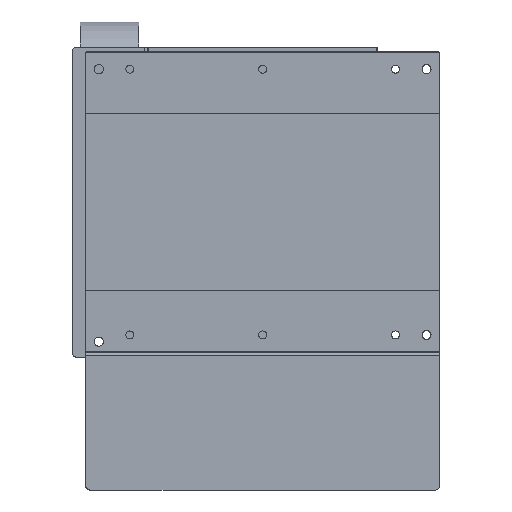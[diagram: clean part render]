
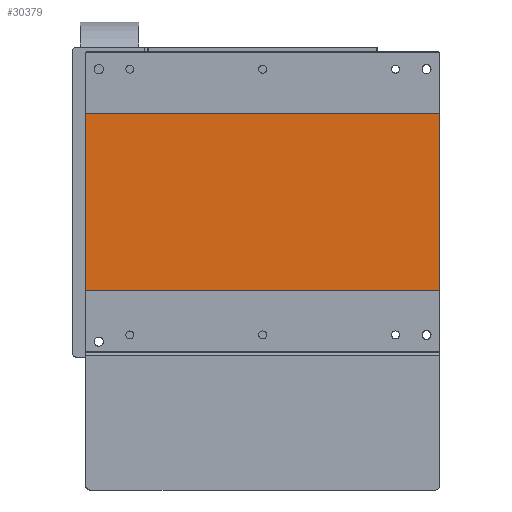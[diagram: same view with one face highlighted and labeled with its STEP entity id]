
A CAD part, front view. The second image highlights one B-rep face of the part: STEP entity #30379.
In plain terms, the highlighted planar face has unit normal (0, -1, 0).
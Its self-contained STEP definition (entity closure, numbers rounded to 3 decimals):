
#4488 = ORIENTED_EDGE ( 'NONE', *, *, #5223, .F. ) ;
#4627 = DIRECTION ( 'NONE',  ( 0., 1., 0. ) ) ;
#4969 = DIRECTION ( 'NONE',  ( 0., 0., -1. ) ) ;
#5223 = EDGE_CURVE ( 'NONE', #43406, #20478, #54245, .T. ) ;
#5656 = EDGE_CURVE ( 'NONE', #49024, #43406, #89039, .T. ) ;
#9570 = ORIENTED_EDGE ( 'NONE', *, *, #65880, .F. ) ;
#11076 = CARTESIAN_POINT ( 'NONE',  ( 200., 0.5, -100. ) ) ;
#11401 = CARTESIAN_POINT ( 'NONE',  ( 200., 0.5, 100. ) ) ;
#12317 = DIRECTION ( 'NONE',  ( 0., 0., -1. ) ) ;
#13425 = AXIS2_PLACEMENT_3D ( 'NONE', #26647, #4627, #12317 ) ;
#18946 = CARTESIAN_POINT ( 'NONE',  ( -200., 0.5, 100. ) ) ;
#20478 = VERTEX_POINT ( 'NONE', #58546 ) ;
#23287 = CARTESIAN_POINT ( 'NONE',  ( -200., 0.5, 100. ) ) ;
#26647 = CARTESIAN_POINT ( 'NONE',  ( 200., 0.5, 100. ) ) ;
#30379 = ADVANCED_FACE ( 'NONE', ( #87930 ), #32716, .F. ) ;
#31928 = EDGE_CURVE ( 'NONE', #68995, #49024, #52260, .T. ) ;
#32716 = PLANE ( 'NONE',  #13425 ) ;
#37965 = DIRECTION ( 'NONE',  ( -1., 0., 0. ) ) ;
#43406 = VERTEX_POINT ( 'NONE', #46256 ) ;
#44412 = CARTESIAN_POINT ( 'NONE',  ( -200., 0.5, -100. ) ) ;
#46256 = CARTESIAN_POINT ( 'NONE',  ( -200., 0.5, -100. ) ) ;
#49024 = VERTEX_POINT ( 'NONE', #11076 ) ;
#51760 = VECTOR ( 'NONE', #37965, 1000. ) ;
#52260 = LINE ( 'NONE', #11401, #86243 ) ;
#54245 = LINE ( 'NONE', #18946, #77201 ) ;
#55349 = LINE ( 'NONE', #23287, #59688 ) ;
#55498 = EDGE_LOOP ( 'NONE', ( #9570, #4488, #88284, #78128 ) ) ;
#58546 = CARTESIAN_POINT ( 'NONE',  ( -200., 0.5, 100. ) ) ;
#59688 = VECTOR ( 'NONE', #78892, 1000. ) ;
#65880 = EDGE_CURVE ( 'NONE', #20478, #68995, #55349, .T. ) ;
#68995 = VERTEX_POINT ( 'NONE', #81854 ) ;
#77201 = VECTOR ( 'NONE', #81853, 1000. ) ;
#78128 = ORIENTED_EDGE ( 'NONE', *, *, #31928, .F. ) ;
#78892 = DIRECTION ( 'NONE',  ( 1., 0., 0. ) ) ;
#81853 = DIRECTION ( 'NONE',  ( 0., 0., 1. ) ) ;
#81854 = CARTESIAN_POINT ( 'NONE',  ( 200., 0.5, 100. ) ) ;
#86243 = VECTOR ( 'NONE', #4969, 1000. ) ;
#87930 = FACE_OUTER_BOUND ( 'NONE', #55498, .T. ) ;
#88284 = ORIENTED_EDGE ( 'NONE', *, *, #5656, .F. ) ;
#89039 = LINE ( 'NONE', #44412, #51760 ) ;
